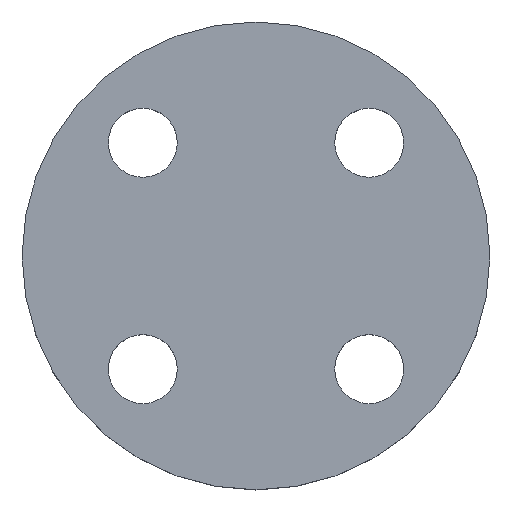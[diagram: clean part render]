
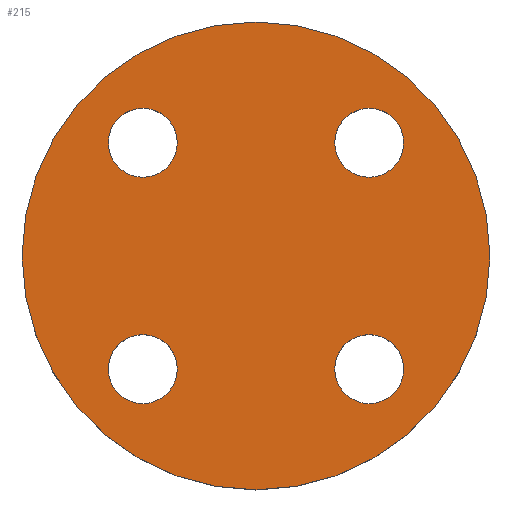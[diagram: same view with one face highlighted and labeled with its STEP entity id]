
A CAD part, top view. The second image highlights one B-rep face of the part: STEP entity #215.
In plain terms, the highlighted planar face has unit normal (0, 0, 1).
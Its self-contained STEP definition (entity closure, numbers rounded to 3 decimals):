
#12 = AXIS2_PLACEMENT_3D ( 'NONE', #539, #540, #541 ) ;
#16 = EDGE_CURVE ( 'NONE', #308, #314, #113, .T. ) ;
#28 = AXIS2_PLACEMENT_3D ( 'NONE', #416, #417, #418 ) ;
#30 = EDGE_CURVE ( 'NONE', #317, #316, #100, .T. ) ;
#38 = CIRCLE ( 'NONE', #277, 7. ) ;
#44 = CIRCLE ( 'NONE', #12, 7. ) ;
#50 = EDGE_CURVE ( 'NONE', #326, #301, #38, .T. ) ;
#56 = CIRCLE ( 'NONE', #209, 7. ) ;
#57 = AXIS2_PLACEMENT_3D ( 'NONE', #413, #414, #415 ) ;
#66 = AXIS2_PLACEMENT_3D ( 'NONE', #428, #429, #430 ) ;
#94 = CARTESIAN_POINT ( 'NONE',  ( 22.981, -22.981, 0. ) ) ;
#95 = DIRECTION ( 'NONE',  ( 0., 0., -1. ) ) ;
#97 = DIRECTION ( 'NONE',  ( -1., 0., 0. ) ) ;
#100 = CIRCLE ( 'NONE', #275, 7. ) ;
#113 = CIRCLE ( 'NONE', #476, 7. ) ;
#120 = EDGE_CURVE ( 'NONE', #316, #317, #333, .T. ) ;
#124 = EDGE_CURVE ( 'NONE', #313, #325, #401, .T. ) ;
#134 = CIRCLE ( 'NONE', #291, 47.5 ) ;
#138 = EDGE_CURVE ( 'NONE', #301, #326, #556, .T. ) ;
#152 = EDGE_CURVE ( 'NONE', #325, #313, #134, .T. ) ;
#198 = CIRCLE ( 'NONE', #565, 7. ) ;
#209 = AXIS2_PLACEMENT_3D ( 'NONE', #94, #95, #97 ) ;
#215 = ADVANCED_FACE ( 'NONE', ( #474, #478, #479, #480, #481 ), #482, .T. ) ;
#220 = EDGE_LOOP ( 'NONE', ( #225, #226 ) ) ;
#222 = ORIENTED_EDGE ( 'NONE', *, *, #515, .T. ) ;
#223 = ORIENTED_EDGE ( 'NONE', *, *, #16, .T. ) ;
#225 = ORIENTED_EDGE ( 'NONE', *, *, #50, .T. ) ;
#226 = ORIENTED_EDGE ( 'NONE', *, *, #138, .T. ) ;
#228 = ORIENTED_EDGE ( 'NONE', *, *, #120, .T. ) ;
#230 = ORIENTED_EDGE ( 'NONE', *, *, #30, .T. ) ;
#231 = ORIENTED_EDGE ( 'NONE', *, *, #375, .T. ) ;
#232 = ORIENTED_EDGE ( 'NONE', *, *, #256, .T. ) ;
#236 = ORIENTED_EDGE ( 'NONE', *, *, #124, .T. ) ;
#237 = ORIENTED_EDGE ( 'NONE', *, *, #152, .T. ) ;
#249 = EDGE_LOOP ( 'NONE', ( #231, #232 ) ) ;
#256 = EDGE_CURVE ( 'NONE', #323, #322, #198, .T. ) ;
#275 = AXIS2_PLACEMENT_3D ( 'NONE', #357, #358, #360 ) ;
#277 = AXIS2_PLACEMENT_3D ( 'NONE', #379, #381, #382 ) ;
#279 = AXIS2_PLACEMENT_3D ( 'NONE', #484, #485, #486 ) ;
#291 = AXIS2_PLACEMENT_3D ( 'NONE', #437, #452, #453 ) ;
#293 = EDGE_LOOP ( 'NONE', ( #236, #237 ) ) ;
#297 = EDGE_LOOP ( 'NONE', ( #222, #223 ) ) ;
#301 = VERTEX_POINT ( 'NONE', #507 ) ;
#308 = VERTEX_POINT ( 'NONE', #510 ) ;
#311 = EDGE_LOOP ( 'NONE', ( #228, #230 ) ) ;
#313 = VERTEX_POINT ( 'NONE', #513 ) ;
#314 = VERTEX_POINT ( 'NONE', #514 ) ;
#316 = VERTEX_POINT ( 'NONE', #519 ) ;
#317 = VERTEX_POINT ( 'NONE', #520 ) ;
#322 = VERTEX_POINT ( 'NONE', #524 ) ;
#323 = VERTEX_POINT ( 'NONE', #336 ) ;
#325 = VERTEX_POINT ( 'NONE', #525 ) ;
#326 = VERTEX_POINT ( 'NONE', #526 ) ;
#333 = CIRCLE ( 'NONE', #57, 7. ) ;
#336 = CARTESIAN_POINT ( 'NONE',  ( 15.981, 22.981, 0. ) ) ;
#341 = CARTESIAN_POINT ( 'NONE',  ( 22.981, -22.981, 0. ) ) ;
#343 = DIRECTION ( 'NONE',  ( 0., 0., -1. ) ) ;
#345 = DIRECTION ( 'NONE',  ( -1., 0., 0. ) ) ;
#357 = CARTESIAN_POINT ( 'NONE',  ( -22.981, 22.981, 0. ) ) ;
#358 = DIRECTION ( 'NONE',  ( 0., 0., -1. ) ) ;
#360 = DIRECTION ( 'NONE',  ( -1., 0., 0. ) ) ;
#375 = EDGE_CURVE ( 'NONE', #322, #323, #44, .T. ) ;
#379 = CARTESIAN_POINT ( 'NONE',  ( -22.981, -22.981, 0. ) ) ;
#381 = DIRECTION ( 'NONE',  ( 0., 0., -1. ) ) ;
#382 = DIRECTION ( 'NONE',  ( -1., 0., 0. ) ) ;
#401 = CIRCLE ( 'NONE', #28, 47.5 ) ;
#413 = CARTESIAN_POINT ( 'NONE',  ( -22.981, 22.981, 0. ) ) ;
#414 = DIRECTION ( 'NONE',  ( 0., 0., -1. ) ) ;
#415 = DIRECTION ( 'NONE',  ( -1., 0., 0. ) ) ;
#416 = CARTESIAN_POINT ( 'NONE',  ( 0., 0., 0. ) ) ;
#417 = DIRECTION ( 'NONE',  ( 0., 0., 1. ) ) ;
#418 = DIRECTION ( 'NONE',  ( 1., 0., 0. ) ) ;
#428 = CARTESIAN_POINT ( 'NONE',  ( -22.981, -22.981, 0. ) ) ;
#429 = DIRECTION ( 'NONE',  ( 0., 0., -1. ) ) ;
#430 = DIRECTION ( 'NONE',  ( -1., 0., 0. ) ) ;
#437 = CARTESIAN_POINT ( 'NONE',  ( 0., 0., 0. ) ) ;
#452 = DIRECTION ( 'NONE',  ( 0., 0., 1. ) ) ;
#453 = DIRECTION ( 'NONE',  ( 1., 0., 0. ) ) ;
#474 = FACE_BOUND ( 'NONE', #297, .T. ) ;
#476 = AXIS2_PLACEMENT_3D ( 'NONE', #341, #343, #345 ) ;
#478 = FACE_BOUND ( 'NONE', #220, .T. ) ;
#479 = FACE_BOUND ( 'NONE', #311, .T. ) ;
#480 = FACE_BOUND ( 'NONE', #249, .T. ) ;
#481 = FACE_OUTER_BOUND ( 'NONE', #293, .T. ) ;
#482 = PLANE ( 'NONE',  #279 ) ;
#484 = CARTESIAN_POINT ( 'NONE',  ( 0., 0., 0. ) ) ;
#485 = DIRECTION ( 'NONE',  ( 0., 0., 1. ) ) ;
#486 = DIRECTION ( 'NONE',  ( 1., 0., 0. ) ) ;
#496 = CARTESIAN_POINT ( 'NONE',  ( 22.981, 22.981, 0. ) ) ;
#497 = DIRECTION ( 'NONE',  ( 0., 0., -1. ) ) ;
#499 = DIRECTION ( 'NONE',  ( -1., 0., 0. ) ) ;
#507 = CARTESIAN_POINT ( 'NONE',  ( -29.981, -22.981, 0. ) ) ;
#510 = CARTESIAN_POINT ( 'NONE',  ( 15.981, -22.981, 0. ) ) ;
#513 = CARTESIAN_POINT ( 'NONE',  ( 47.5, 0., 0. ) ) ;
#514 = CARTESIAN_POINT ( 'NONE',  ( 29.981, -22.981, 0. ) ) ;
#515 = EDGE_CURVE ( 'NONE', #314, #308, #56, .T. ) ;
#519 = CARTESIAN_POINT ( 'NONE',  ( -15.981, 22.981, 0. ) ) ;
#520 = CARTESIAN_POINT ( 'NONE',  ( -29.981, 22.981, 0. ) ) ;
#524 = CARTESIAN_POINT ( 'NONE',  ( 29.981, 22.981, 0. ) ) ;
#525 = CARTESIAN_POINT ( 'NONE',  ( -47.5, 0., 0. ) ) ;
#526 = CARTESIAN_POINT ( 'NONE',  ( -15.981, -22.981, 0. ) ) ;
#539 = CARTESIAN_POINT ( 'NONE',  ( 22.981, 22.981, 0. ) ) ;
#540 = DIRECTION ( 'NONE',  ( 0., 0., -1. ) ) ;
#541 = DIRECTION ( 'NONE',  ( -1., 0., 0. ) ) ;
#556 = CIRCLE ( 'NONE', #66, 7. ) ;
#565 = AXIS2_PLACEMENT_3D ( 'NONE', #496, #497, #499 ) ;
